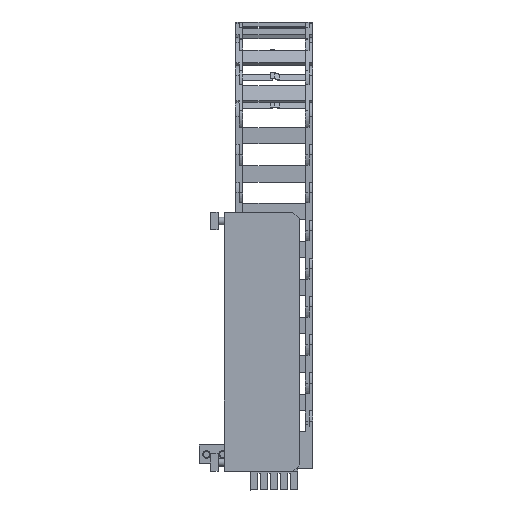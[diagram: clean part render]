
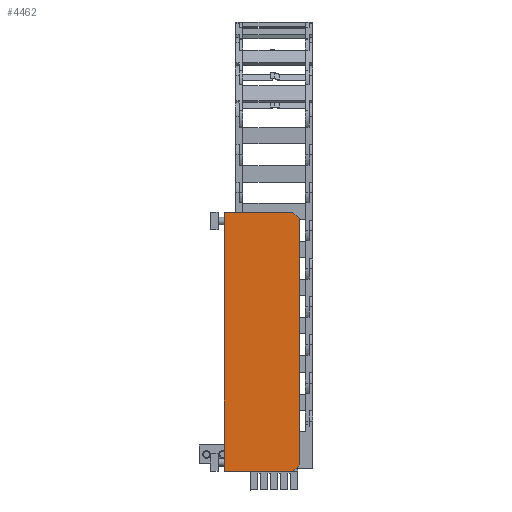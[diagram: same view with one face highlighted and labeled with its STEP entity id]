
A CAD part, front view. The second image highlights one B-rep face of the part: STEP entity #4462.
In plain terms, the highlighted planar face has unit normal (0, -1, 0).
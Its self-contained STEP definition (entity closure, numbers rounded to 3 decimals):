
#4462 = ADVANCED_FACE( '', ( #9721 ), #9722, .T. );
#9721 = FACE_OUTER_BOUND( '', #15926, .T. );
#9722 = PLANE( '', #15927 );
#15926 = EDGE_LOOP( '', ( #29428, #29429, #29430, #29431, #29432, #29433 ) );
#15927 = AXIS2_PLACEMENT_3D( '', #29434, #29435, #29436 );
#29428 = ORIENTED_EDGE( '', *, *, #42978, .F. );
#29429 = ORIENTED_EDGE( '', *, *, #42793, .T. );
#29430 = ORIENTED_EDGE( '', *, *, #42979, .F. );
#29431 = ORIENTED_EDGE( '', *, *, #42980, .T. );
#29432 = ORIENTED_EDGE( '', *, *, #38024, .T. );
#29433 = ORIENTED_EDGE( '', *, *, #41710, .T. );
#29434 = CARTESIAN_POINT( '', ( 60., 0., 207. ) );
#29435 = DIRECTION( '', ( 0., -1., 0. ) );
#29436 = DIRECTION( '', ( 1., 0., 0. ) );
#38024 = EDGE_CURVE( '', #46068, #46069, #46070, .T. );
#41710 = EDGE_CURVE( '', #46069, #52084, #52086, .T. );
#42793 = EDGE_CURVE( '', #53587, #53585, #53588, .T. );
#42978 = EDGE_CURVE( '', #53587, #52084, #53826, .T. );
#42979 = EDGE_CURVE( '', #53827, #53585, #53828, .T. );
#42980 = EDGE_CURVE( '', #53827, #46068, #53829, .F. );
#46068 = VERTEX_POINT( '', #57644 );
#46069 = VERTEX_POINT( '', #57645 );
#46070 = LINE( '', #57646, #57647 );
#52084 = VERTEX_POINT( '', #66018 );
#52086 = LINE( '', #66021, #66022 );
#53585 = VERTEX_POINT( '', #68134 );
#53587 = VERTEX_POINT( '', #68137 );
#53588 = LINE( '', #68138, #68139 );
#53826 = LINE( '', #68474, #68475 );
#53827 = VERTEX_POINT( '', #68476 );
#53828 = LINE( '', #68477, #68478 );
#53829 = LINE( '', #68479, #68480 );
#57644 = CARTESIAN_POINT( '', ( 55., 0., 207. ) );
#57645 = CARTESIAN_POINT( '', ( 0., 0., 207. ) );
#57646 = CARTESIAN_POINT( '', ( 60., 0., 207. ) );
#57647 = VECTOR( '', #72169, 1000. );
#66018 = CARTESIAN_POINT( '', ( 0., 0., 0. ) );
#66021 = CARTESIAN_POINT( '', ( 0., 0., 207. ) );
#66022 = VECTOR( '', #76538, 1000. );
#68134 = CARTESIAN_POINT( '', ( 60., 0., 5. ) );
#68137 = CARTESIAN_POINT( '', ( 55., 0., 0. ) );
#68138 = CARTESIAN_POINT( '', ( 161., 0., 106. ) );
#68139 = VECTOR( '', #77744, 1000. );
#68474 = CARTESIAN_POINT( '', ( 60., 0., 0. ) );
#68475 = VECTOR( '', #77929, 1000. );
#68476 = CARTESIAN_POINT( '', ( 60., 0., 202. ) );
#68477 = CARTESIAN_POINT( '', ( 60., 0., 207. ) );
#68478 = VECTOR( '', #77930, 1000. );
#68479 = CARTESIAN_POINT( '', ( 57.5, 0., 204.5 ) );
#68480 = VECTOR( '', #77931, 1000. );
#72169 = DIRECTION( '', ( -1., 0., 0. ) );
#76538 = DIRECTION( '', ( 0., 0., -1. ) );
#77744 = DIRECTION( '', ( 0.707, 0., 0.707 ) );
#77929 = DIRECTION( '', ( -1., 0., 0. ) );
#77930 = DIRECTION( '', ( 0., 0., -1. ) );
#77931 = DIRECTION( '', ( 0.707, 0., -0.707 ) );
